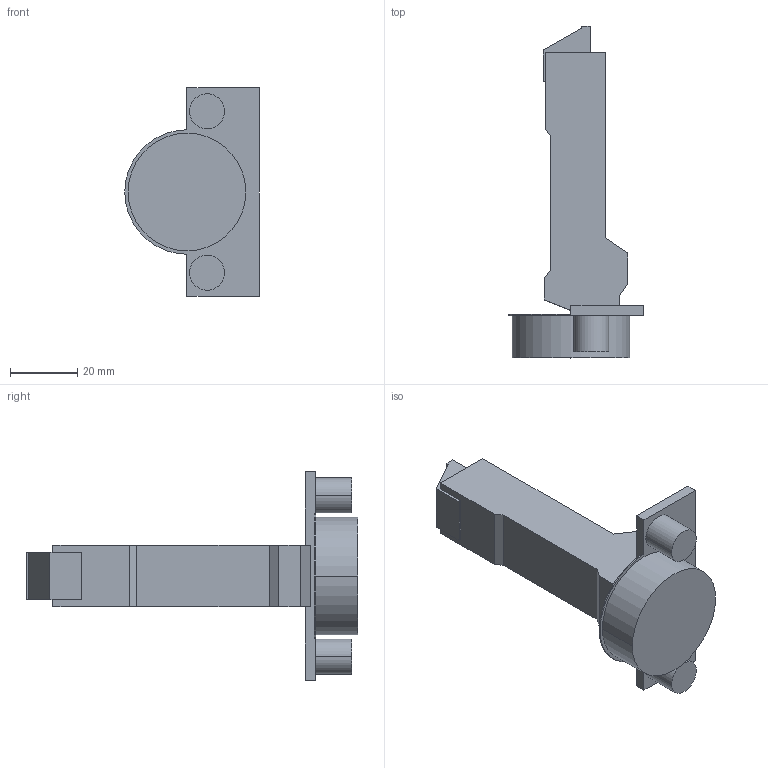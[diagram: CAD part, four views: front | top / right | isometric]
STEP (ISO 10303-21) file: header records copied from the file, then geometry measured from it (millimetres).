
FILE_DESCRIPTION (( 'STEP AP214' ), '1' );
FILE_NAME ('Scharnier T Click-on 95° S_BB, K95_Dübel.step', '2010-12-06T09:51:24', ( 'grass' ), ( '' ), 'SwSTEP 2.0', 'SolidWorks 2010', '' );
FILE_SCHEMA (( 'AUTOMOTIVE_DESIGN' ));
Length unit declared in the file: millimetre
Products named in the file (1): Scharnier T Click-on 95° S_BB, K95_Dübel
Bounding box: 40 x 98.7 x 62 mm (x, y, z)
Volume: 44281.2 mm3; surface area: 12591.6 mm2
Topology: 1 solids, 1 shells, 56 faces, 138 edges, 92 vertices
Faces by surface type: plane 39, cylinder 17
Entity records: 1690 total; most frequent: CARTESIAN_POINT 287, DIRECTION 286, ORIENTED_EDGE 276, EDGE_CURVE 138, LINE 104, VECTOR 104, VERTEX_POINT 92, AXIS2_PLACEMENT_3D 91
